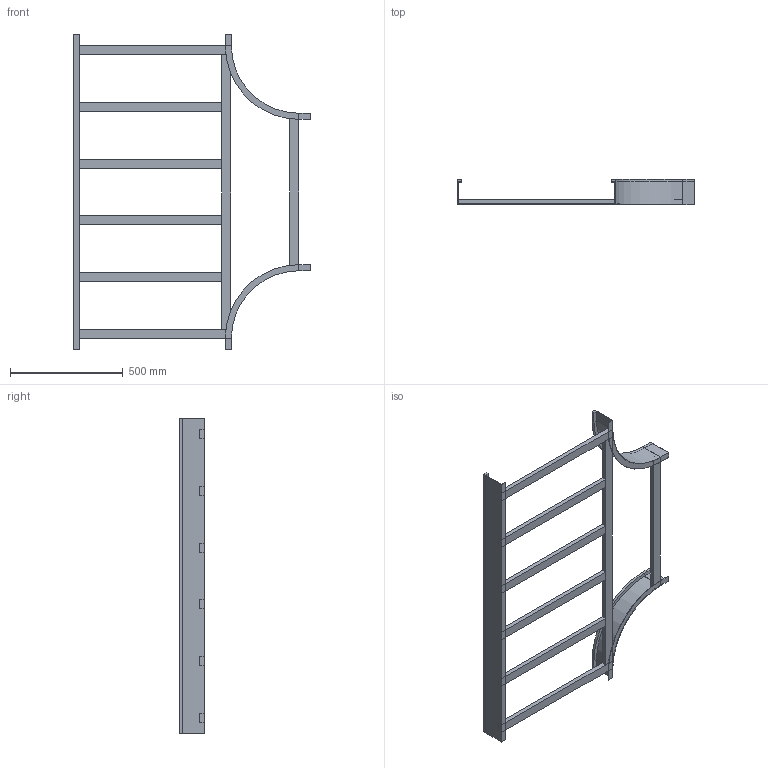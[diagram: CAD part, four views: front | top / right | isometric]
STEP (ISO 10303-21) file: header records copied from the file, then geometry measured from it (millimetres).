
FILE_DESCRIPTION (( 'STEP AP214' ), '1' );
FILE_NAME ('B2_15B3J700.step', '2025-02-21T15:52:15', ( '' ), ( '' ), 'SwSTEP 2.0', 'SolidWorks 2023', '' );
FILE_SCHEMA (( 'AUTOMOTIVE_DESIGN' ));
Length unit declared in the file: millimetre
Products named in the file (6): B2_LONGH.RETT_H112.5_R300+700; TRAVERSINO_700; B2_LONGH.INTERNO 90°_H112.5_R300; B2_TRAVERSINO_LONG._R300+700; TRAVERSINO_INTERMEDIO_R300+700; B2_15B3J700
Assembly tree (11 placements, depth 2):
  B2_15B3J700
    B2_LONGH.INTERNO 90°_H112.5_R300  x2
    B2_LONGH.RETT_H112.5_R300+700
    TRAVERSINO_700  x3
    B2_TRAVERSINO_LONG._R300+700
    TRAVERSINO_INTERMEDIO_R300+700  x4
Bounding box: 1050 x 112.5 x 1400 mm (x, y, z)
Volume: 5998843.5 mm3; surface area: 1528644.2 mm2
Topology: 11 solids, 11 shells, 110 faces, 232 edges, 144 vertices
Faces by surface type: plane 102, cylinder 8
Entity records: 1655 total; most frequent: DIRECTION 260, CARTESIAN_POINT 256, ORIENTED_EDGE 232, EDGE_CURVE 116, VECTOR 108, LINE 108, AXIS2_PLACEMENT_3D 76, VERTEX_POINT 72
